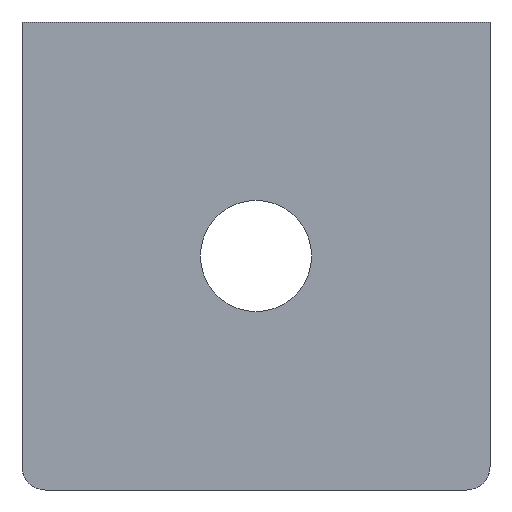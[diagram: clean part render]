
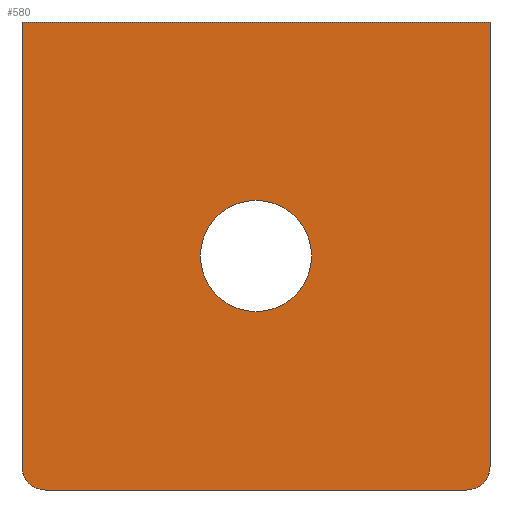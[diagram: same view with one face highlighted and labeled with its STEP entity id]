
A CAD part, left-side view. The second image highlights one B-rep face of the part: STEP entity #580.
In plain terms, the highlighted planar face has unit normal (-1, 0, 0).
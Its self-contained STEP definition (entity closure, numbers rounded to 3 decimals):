
#5 = ORIENTED_EDGE ( 'NONE', *, *, #110, .T. ) ;
#18 = DIRECTION ( 'NONE',  ( -1., 0., 0. ) ) ;
#19 = CARTESIAN_POINT ( 'NONE',  ( -43.544, 27.595, 40. ) ) ;
#21 = CARTESIAN_POINT ( 'NONE',  ( -43.544, 27.595, 40. ) ) ;
#24 = CIRCLE ( 'NONE', #861, 4.75 ) ;
#27 = DIRECTION ( 'NONE',  ( -1., 0., 0. ) ) ;
#48 = EDGE_CURVE ( 'NONE', #271, #479, #24, .T. ) ;
#55 = VECTOR ( 'NONE', #544, 1000. ) ;
#77 = CARTESIAN_POINT ( 'NONE',  ( -43.544, 25.595, 0. ) ) ;
#86 = CARTESIAN_POINT ( 'NONE',  ( -43.544, -10.405, 2. ) ) ;
#87 = DIRECTION ( 'NONE',  ( 0., -1., 0. ) ) ;
#110 = EDGE_CURVE ( 'NONE', #506, #497, #333, .T. ) ;
#111 = ORIENTED_EDGE ( 'NONE', *, *, #596, .T. ) ;
#114 = CIRCLE ( 'NONE', #833, 4.75 ) ;
#115 = CARTESIAN_POINT ( 'NONE',  ( -43.544, 12.345, 20. ) ) ;
#125 = VERTEX_POINT ( 'NONE', #334 ) ;
#178 = LINE ( 'NONE', #19, #481 ) ;
#180 = VECTOR ( 'NONE', #495, 1000. ) ;
#198 = VERTEX_POINT ( 'NONE', #21 ) ;
#226 = FACE_OUTER_BOUND ( 'NONE', #555, .T. ) ;
#230 = ORIENTED_EDGE ( 'NONE', *, *, #375, .F. ) ;
#239 = ORIENTED_EDGE ( 'NONE', *, *, #514, .T. ) ;
#254 = EDGE_CURVE ( 'NONE', #497, #761, #389, .T. ) ;
#260 = LINE ( 'NONE', #277, #297 ) ;
#262 = ORIENTED_EDGE ( 'NONE', *, *, #254, .T. ) ;
#263 = EDGE_CURVE ( 'NONE', #325, #125, #828, .T. ) ;
#271 = VERTEX_POINT ( 'NONE', #115 ) ;
#277 = CARTESIAN_POINT ( 'NONE',  ( -43.544, 27.595, 40. ) ) ;
#296 = CARTESIAN_POINT ( 'NONE',  ( -43.544, -10.405, 0. ) ) ;
#297 = VECTOR ( 'NONE', #819, 1000. ) ;
#303 = CARTESIAN_POINT ( 'NONE',  ( -43.544, 27.595, 0. ) ) ;
#305 = CARTESIAN_POINT ( 'NONE',  ( -43.544, -12.405, 40. ) ) ;
#321 = CARTESIAN_POINT ( 'NONE',  ( -43.544, 2.845, 20. ) ) ;
#325 = VERTEX_POINT ( 'NONE', #305 ) ;
#333 = CIRCLE ( 'NONE', #405, 2. ) ;
#334 = CARTESIAN_POINT ( 'NONE',  ( -43.544, -12.405, 2. ) ) ;
#363 = CARTESIAN_POINT ( 'NONE',  ( -43.544, -12.405, 40. ) ) ;
#375 = EDGE_CURVE ( 'NONE', #479, #271, #114, .T. ) ;
#378 = FACE_BOUND ( 'NONE', #780, .T. ) ;
#389 = LINE ( 'NONE', #303, #55 ) ;
#393 = ORIENTED_EDGE ( 'NONE', *, *, #263, .F. ) ;
#396 = DIRECTION ( 'NONE',  ( 0., 1., 0. ) ) ;
#403 = DIRECTION ( 'NONE',  ( 1., 0., 0. ) ) ;
#405 = AXIS2_PLACEMENT_3D ( 'NONE', #820, #27, #396 ) ;
#460 = CIRCLE ( 'NONE', #783, 2. ) ;
#479 = VERTEX_POINT ( 'NONE', #321 ) ;
#481 = VECTOR ( 'NONE', #830, 1000. ) ;
#495 = DIRECTION ( 'NONE',  ( 0., 0., -1. ) ) ;
#497 = VERTEX_POINT ( 'NONE', #77 ) ;
#506 = VERTEX_POINT ( 'NONE', #522 ) ;
#514 = EDGE_CURVE ( 'NONE', #198, #506, #260, .T. ) ;
#522 = CARTESIAN_POINT ( 'NONE',  ( -43.544, 27.595, 2. ) ) ;
#531 = DIRECTION ( 'NONE',  ( 0., 1., 0. ) ) ;
#533 = DIRECTION ( 'NONE',  ( -1., 0., 0. ) ) ;
#540 = AXIS2_PLACEMENT_3D ( 'NONE', #755, #403, #617 ) ;
#544 = DIRECTION ( 'NONE',  ( 0., -1., 0. ) ) ;
#555 = EDGE_LOOP ( 'NONE', ( #239, #5, #262, #111, #393, #567 ) ) ;
#567 = ORIENTED_EDGE ( 'NONE', *, *, #630, .F. ) ;
#577 = ORIENTED_EDGE ( 'NONE', *, *, #48, .F. ) ;
#580 = ADVANCED_FACE ( 'NONE', ( #378, #226 ), #763, .F. ) ;
#596 = EDGE_CURVE ( 'NONE', #761, #125, #460, .T. ) ;
#607 = DIRECTION ( 'NONE',  ( -1., 0., 0. ) ) ;
#608 = CARTESIAN_POINT ( 'NONE',  ( -43.544, 7.595, 20. ) ) ;
#617 = DIRECTION ( 'NONE',  ( 0., 1., 0. ) ) ;
#630 = EDGE_CURVE ( 'NONE', #198, #325, #178, .T. ) ;
#664 = DIRECTION ( 'NONE',  ( 0., -1., 0. ) ) ;
#669 = CARTESIAN_POINT ( 'NONE',  ( -43.544, 7.595, 20. ) ) ;
#755 = CARTESIAN_POINT ( 'NONE',  ( -43.544, 27.595, 40. ) ) ;
#761 = VERTEX_POINT ( 'NONE', #296 ) ;
#763 = PLANE ( 'NONE',  #540 ) ;
#780 = EDGE_LOOP ( 'NONE', ( #230, #577 ) ) ;
#783 = AXIS2_PLACEMENT_3D ( 'NONE', #86, #18, #531 ) ;
#819 = DIRECTION ( 'NONE',  ( 0., 0., -1. ) ) ;
#820 = CARTESIAN_POINT ( 'NONE',  ( -43.544, 25.595, 2. ) ) ;
#828 = LINE ( 'NONE', #363, #180 ) ;
#830 = DIRECTION ( 'NONE',  ( 0., -1., 0. ) ) ;
#833 = AXIS2_PLACEMENT_3D ( 'NONE', #669, #607, #664 ) ;
#861 = AXIS2_PLACEMENT_3D ( 'NONE', #608, #533, #87 ) ;
